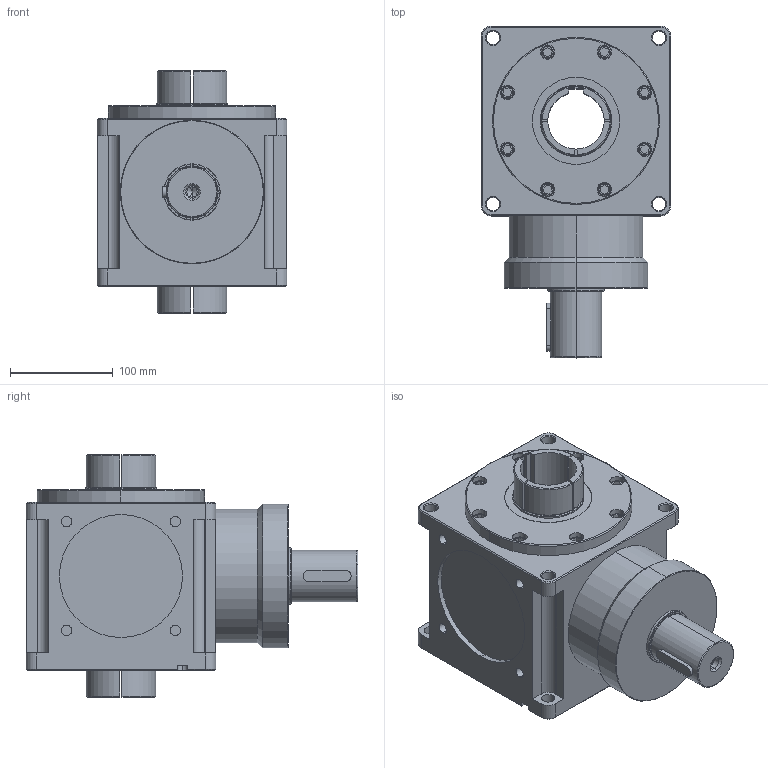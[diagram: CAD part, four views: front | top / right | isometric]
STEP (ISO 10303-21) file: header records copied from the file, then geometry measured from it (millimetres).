
FILE_DESCRIPTION (( 'STEP AP214' ), '1' );
FILE_NAME ('CCT185A-002-2HP-K.STEP', '2025-05-26T05:15:18', ( '微软用户' ), ( '微软中国' ), 'SwSTEP 2.0', 'SolidWorks 2024', '' );
FILE_SCHEMA (( 'AUTOMOTIVE_DESIGN' ));
Length unit declared in the file: millimetre
Products named in the file (1): CCT185A-002-2HP-K
Bounding box: 185 x 323.5 x 236 mm (x, y, z)
Volume: 6038520.5 mm3; surface area: 322984.4 mm2
Topology: 1 solids, 1 shells, 378 faces, 901 edges, 571 vertices
Faces by surface type: plane 172, cylinder 130, torus 42, cone 34
Entity records: 11228 total; most frequent: CARTESIAN_POINT 2143, DIRECTION 2003, ORIENTED_EDGE 1798, EDGE_CURVE 899, AXIS2_PLACEMENT_3D 759, VERTEX_POINT 571, VECTOR 485, LINE 485
